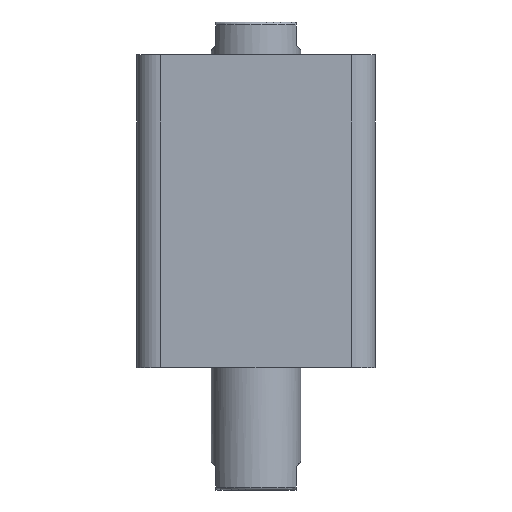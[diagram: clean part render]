
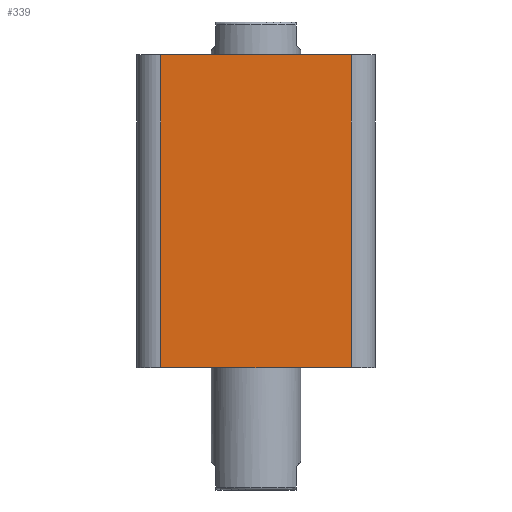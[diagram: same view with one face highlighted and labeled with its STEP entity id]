
A CAD part, front view. The second image highlights one B-rep face of the part: STEP entity #339.
In plain terms, the highlighted planar face has unit normal (0, -1, 0).
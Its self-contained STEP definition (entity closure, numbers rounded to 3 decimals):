
#190 = EDGE_LOOP ( 'NONE', ( #2952, #2953, #2954, #2955 ) ) ;
#219 = VERTEX_POINT ( 'NONE', #2347 ) ;
#256 = VERTEX_POINT ( 'NONE', #2382 ) ;
#258 = VERTEX_POINT ( 'NONE', #2384 ) ;
#339 = ADVANCED_FACE ( 'NONE', ( #2679 ), #2508, .F. ) ;
#961 = LINE ( 'NONE', #1689, #974 ) ;
#967 = LINE ( 'NONE', #1699, #970 ) ;
#969 = LINE ( 'NONE', #1701, #972 ) ;
#970 = VECTOR ( 'NONE', #1700, 1000. ) ;
#972 = VECTOR ( 'NONE', #1702, 1000. ) ;
#973 = LINE ( 'NONE', #1704, #976 ) ;
#974 = VECTOR ( 'NONE', #1703, 1000. ) ;
#976 = VECTOR ( 'NONE', #1705, 1000. ) ;
#1430 = CARTESIAN_POINT ( 'NONE',  ( -32., -40., 0. ) ) ;
#1689 = CARTESIAN_POINT ( 'NONE',  ( -40., -40., 0. ) ) ;
#1699 = CARTESIAN_POINT ( 'NONE',  ( -40., -40., 105. ) ) ;
#1700 = DIRECTION ( 'NONE',  ( 1., 0., 0. ) ) ;
#1701 = CARTESIAN_POINT ( 'NONE',  ( -32., -40., 105. ) ) ;
#1702 = DIRECTION ( 'NONE',  ( 0., 0., -1. ) ) ;
#1703 = DIRECTION ( 'NONE',  ( 1., 0., 0. ) ) ;
#1704 = CARTESIAN_POINT ( 'NONE',  ( 32., -40., 105. ) ) ;
#1705 = DIRECTION ( 'NONE',  ( 0., 0., 1. ) ) ;
#1958 = VERTEX_POINT ( 'NONE', #1430 ) ;
#2134 = EDGE_CURVE ( 'NONE', #219, #256, #967, .T. ) ;
#2135 = EDGE_CURVE ( 'NONE', #219, #1958, #969, .T. ) ;
#2136 = EDGE_CURVE ( 'NONE', #1958, #258, #961, .T. ) ;
#2137 = EDGE_CURVE ( 'NONE', #258, #256, #973, .T. ) ;
#2278 = AXIS2_PLACEMENT_3D ( 'NONE', #2506, #2510, #2511 ) ;
#2347 = CARTESIAN_POINT ( 'NONE',  ( -32., -40., 105. ) ) ;
#2382 = CARTESIAN_POINT ( 'NONE',  ( 32., -40., 105. ) ) ;
#2384 = CARTESIAN_POINT ( 'NONE',  ( 32., -40., 0. ) ) ;
#2506 = CARTESIAN_POINT ( 'NONE',  ( -40., -40., 105. ) ) ;
#2508 = PLANE ( 'NONE',  #2278 ) ;
#2510 = DIRECTION ( 'NONE',  ( 0., 1., 0. ) ) ;
#2511 = DIRECTION ( 'NONE',  ( 0., 0., 1. ) ) ;
#2679 = FACE_OUTER_BOUND ( 'NONE', #190, .T. ) ;
#2952 = ORIENTED_EDGE ( 'NONE', *, *, #2134, .F. ) ;
#2953 = ORIENTED_EDGE ( 'NONE', *, *, #2135, .T. ) ;
#2954 = ORIENTED_EDGE ( 'NONE', *, *, #2136, .T. ) ;
#2955 = ORIENTED_EDGE ( 'NONE', *, *, #2137, .T. ) ;
